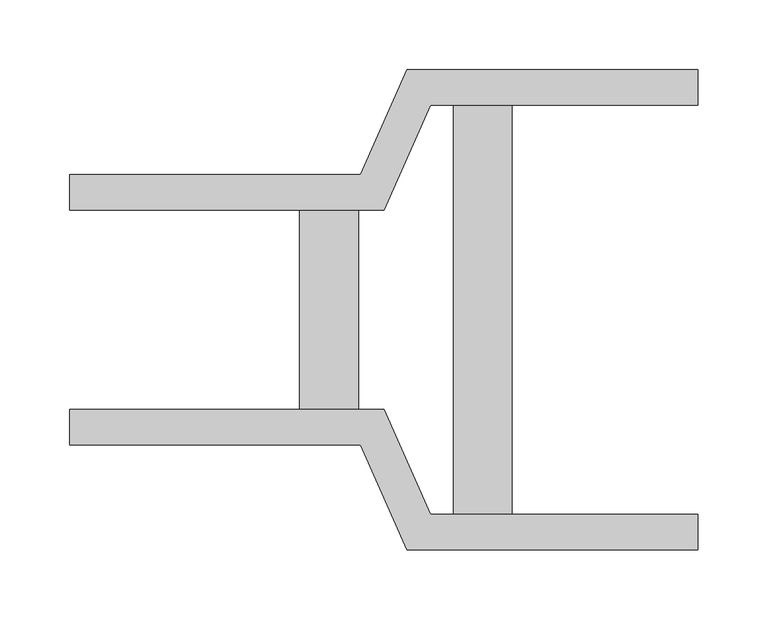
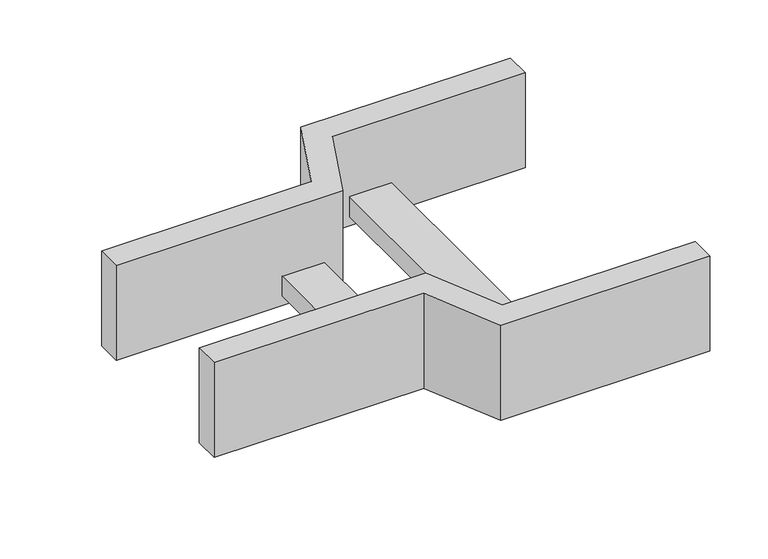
"""IFC4 building model written with IfcOpenShell, lengths in millimetres: cable carrier fitting geometry, Legrand_CableLadder_Swifts_Topaz_Reducer-13 : Straight - Hot Dip Galvanised (after manufacture)."""

from ifc_helpers import new_model, si_unit, frame, origin, place, context, project, spatial, polyline, outline, extrude, source, transform, mapped, element, save


def cable_carrier_fitting_a2381116(model_context):
    return source(origin(), model_context, "Body", "SweptSolid", [
        extrude(outline(polyline([(-225.0, 71.5), (-225.0, 97.0), (-16.4777457, 97.0), (16.6982082, 172.0), (225.0, 172.0), (225.0, 146.5), (33.3017918, 146.5), (0.1258379, 71.5), (-225.0, 71.5)])), frame((0.0, 0.0, -50.0), z_axis=(0.0, 0.0, 1.0), x_axis=(1.0, 0.0, 0.0)), (0.0, 0.0, 1.0), 100.0),
        extrude(outline(polyline([(-225.0, -97.0), (-225.0, -71.5), (0.1258379, -71.5), (33.3017918, -146.5), (225.0, -146.5), (225.0, -172.0), (16.6982082, -172.0), (-16.4777457, -97.0), (-225.0, -97.0)])), frame((0.0, 0.0, -50.0), z_axis=(0.0, 0.0, 1.0), x_axis=(1.0, 0.0, 0.0)), (0.0, 0.0, 1.0), 100.0),
        extrude(outline(polyline([(92.0, 146.5), (92.0, -146.5), (50.0, -146.5), (50.0, 146.5), (92.0, 146.5)])), frame((0.0, 0.0, -40.0), z_axis=(0.0, 0.0, 1.0), x_axis=(1.0, 0.0, 0.0)), (0.0, 0.0, 1.0), 21.0),
        extrude(outline(polyline([(-60.1759539, -71.5), (-60.1759539, 71.5), (-18.1759539, 71.5), (-18.1759539, -71.5), (-60.1759539, -71.5)])), frame((0.0, 0.0, -40.0), z_axis=(0.0, 0.0, 1.0), x_axis=(1.0, 0.0, 0.0)), (0.0, 0.0, 1.0), 21.0),
    ])


if __name__ == "__main__":
    model = new_model("IFC4")
    model_context = context("Model", 3, world=origin())
    ifc_project = project(units=[si_unit("LENGTHUNIT", "METRE", prefix="MILLI")], contexts=[model_context])
    site = spatial("IfcSite", under=ifc_project)
    building = spatial("IfcBuilding", under=site)
    placement = place(None, origin())
    cable_carrier_fitting_shape = cable_carrier_fitting_a2381116(model_context)
    element("IfcCableCarrierFitting", 1, ObjectType="Legrand_CableLadder_Swifts_Topaz_Reducer-13 : Straight - Hot Dip Galvanised (after manufacture)", at=placement, inside=building, context=model_context, shape_type="MappedRepresentation", body=[
        mapped(cable_carrier_fitting_shape, transform((0.0, 0.0, 0.0), x_axis=(1.0, 0.0, 0.0), y_axis=(0.0, 1.0, 0.0), z_axis=(0.0, 0.0, 1.0))),
    ])
    save(model, "model.ifc")
